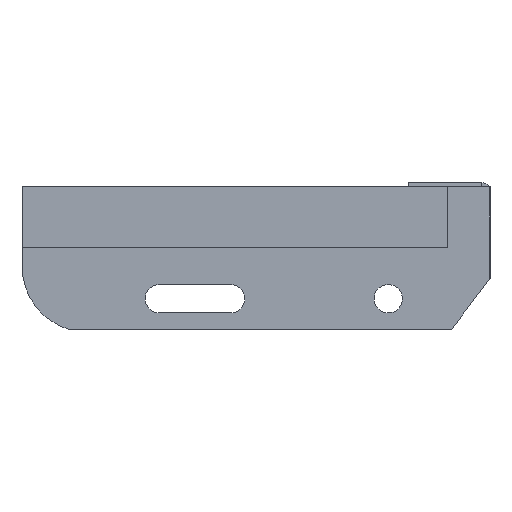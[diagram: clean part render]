
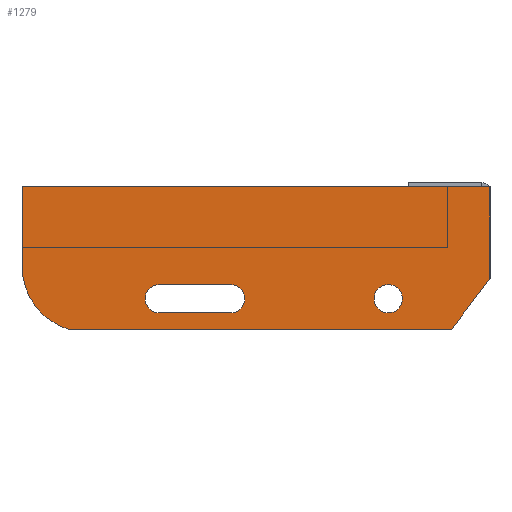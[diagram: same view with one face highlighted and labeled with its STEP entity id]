
A CAD part, left-side view. The second image highlights one B-rep face of the part: STEP entity #1279.
In plain terms, the highlighted planar face has unit normal (-1, 0, 0) as drawn and (0, 0, 1) by its records, which use the part's own axes.
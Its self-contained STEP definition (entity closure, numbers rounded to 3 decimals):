
#20 = VERTEX_POINT ( 'NONE', #645 ) ;
#32 = DIRECTION ( 'NONE',  ( -1., 0., 0. ) ) ;
#55 = DIRECTION ( 'NONE',  ( 0., 0., 1. ) ) ;
#59 = CARTESIAN_POINT ( 'NONE',  ( -162.5, -62., 3. ) ) ;
#69 = LINE ( 'NONE', #1613, #1296 ) ;
#104 = DIRECTION ( 'NONE',  ( 1., 0., 0. ) ) ;
#117 = LINE ( 'NONE', #1166, #1078 ) ;
#143 = DIRECTION ( 'NONE',  ( 1., 0., 0. ) ) ;
#144 = LINE ( 'NONE', #1244, #1313 ) ;
#160 = ORIENTED_EDGE ( 'NONE', *, *, #1786, .T. ) ;
#172 = ORIENTED_EDGE ( 'NONE', *, *, #1314, .T. ) ;
#183 = VERTEX_POINT ( 'NONE', #718 ) ;
#192 = DIRECTION ( 'NONE',  ( 1., 0., 0. ) ) ;
#211 = CIRCLE ( 'NONE', #275, 7. ) ;
#244 = VECTOR ( 'NONE', #1634, 1000. ) ;
#254 = CARTESIAN_POINT ( 'NONE',  ( -127.5, -48., 3. ) ) ;
#270 = CARTESIAN_POINT ( 'NONE',  ( -230., 0., 3. ) ) ;
#275 = AXIS2_PLACEMENT_3D ( 'NONE', #826, #1764, #1912 ) ;
#302 = DIRECTION ( 'NONE',  ( 1., 0., 0. ) ) ;
#376 = CARTESIAN_POINT ( 'NONE',  ( -162.5, -48., 3. ) ) ;
#391 = CARTESIAN_POINT ( 'NONE',  ( -127.5, -62., 3. ) ) ;
#396 = ORIENTED_EDGE ( 'NONE', *, *, #980, .T. ) ;
#442 = CARTESIAN_POINT ( 'NONE',  ( -50., -55., 3. ) ) ;
#447 = DIRECTION ( 'NONE',  ( 0., 1., 0. ) ) ;
#456 = VECTOR ( 'NONE', #714, 1000. ) ;
#505 = VERTEX_POINT ( 'NONE', #998 ) ;
#515 = ORIENTED_EDGE ( 'NONE', *, *, #580, .F. ) ;
#518 = EDGE_CURVE ( 'NONE', #1300, #1070, #1923, .T. ) ;
#543 = EDGE_CURVE ( 'NONE', #1960, #1675, #69, .T. ) ;
#547 = DIRECTION ( 'NONE',  ( 0., 0., 1. ) ) ;
#566 = FACE_BOUND ( 'NONE', #1840, .T. ) ;
#580 = EDGE_CURVE ( 'NONE', #20, #1109, #211, .T. ) ;
#617 = EDGE_CURVE ( 'NONE', #1070, #183, #725, .T. ) ;
#645 = CARTESIAN_POINT ( 'NONE',  ( -43., -55., 3. ) ) ;
#648 = CARTESIAN_POINT ( 'NONE',  ( -57., -55., 3. ) ) ;
#664 = AXIS2_PLACEMENT_3D ( 'NONE', #1462, #55, #840 ) ;
#714 = DIRECTION ( 'NONE',  ( 0., -1., 0. ) ) ;
#718 = CARTESIAN_POINT ( 'NONE',  ( -169.5, -55., 3. ) ) ;
#725 = CIRCLE ( 'NONE', #664, 7. ) ;
#799 = AXIS2_PLACEMENT_3D ( 'NONE', #442, #1431, #1087 ) ;
#824 = DIRECTION ( 'NONE',  ( 1., 0., 0. ) ) ;
#826 = CARTESIAN_POINT ( 'NONE',  ( -50., -55., 3. ) ) ;
#829 = AXIS2_PLACEMENT_3D ( 'NONE', #1075, #1709, #302 ) ;
#838 = LINE ( 'NONE', #59, #1882 ) ;
#840 = DIRECTION ( 'NONE',  ( 1., 0., 0. ) ) ;
#863 = LINE ( 'NONE', #270, #456 ) ;
#882 = PLANE ( 'NONE',  #1148 ) ;
#900 = ORIENTED_EDGE ( 'NONE', *, *, #543, .T. ) ;
#901 = EDGE_CURVE ( 'NONE', #1109, #20, #1681, .T. ) ;
#907 = CARTESIAN_POINT ( 'NONE',  ( 0., 0., 3. ) ) ;
#924 = AXIS2_PLACEMENT_3D ( 'NONE', #1311, #1479, #1938 ) ;
#956 = ORIENTED_EDGE ( 'NONE', *, *, #1161, .F. ) ;
#973 = CARTESIAN_POINT ( 'NONE',  ( -162.5, -48., 3. ) ) ;
#980 = EDGE_CURVE ( 'NONE', #1698, #505, #1782, .T. ) ;
#983 = CARTESIAN_POINT ( 'NONE',  ( -230., -39., 3. ) ) ;
#985 = CARTESIAN_POINT ( 'NONE',  ( -162.5, -62., 3. ) ) ;
#998 = CARTESIAN_POINT ( 'NONE',  ( -207.26, -70., 3. ) ) ;
#1062 = DIRECTION ( 'NONE',  ( 0., 0., 1. ) ) ;
#1070 = VERTEX_POINT ( 'NONE', #376 ) ;
#1075 = CARTESIAN_POINT ( 'NONE',  ( -197.5, -39., 3. ) ) ;
#1078 = VECTOR ( 'NONE', #447, 1000. ) ;
#1087 = DIRECTION ( 'NONE',  ( 1., 0., 0. ) ) ;
#1109 = VERTEX_POINT ( 'NONE', #648 ) ;
#1145 = EDGE_CURVE ( 'NONE', #1887, #1300, #1624, .T. ) ;
#1148 = AXIS2_PLACEMENT_3D ( 'NONE', #1958, #547, #104 ) ;
#1152 = VERTEX_POINT ( 'NONE', #985 ) ;
#1161 = EDGE_CURVE ( 'NONE', #1152, #1887, #838, .T. ) ;
#1166 = CARTESIAN_POINT ( 'NONE',  ( 0., 0., 3. ) ) ;
#1173 = DIRECTION ( 'NONE',  ( 0.602, 0.799, 0. ) ) ;
#1244 = CARTESIAN_POINT ( 'NONE',  ( -18.839, -70., 3. ) ) ;
#1254 = EDGE_LOOP ( 'NONE', ( #1836, #900, #172, #396, #160, #1984 ) ) ;
#1255 = CARTESIAN_POINT ( 'NONE',  ( -18.839, -70., 3. ) ) ;
#1257 = CARTESIAN_POINT ( 'NONE',  ( 0., -45., 3. ) ) ;
#1279 = ADVANCED_FACE ( 'NONE', ( #1661, #1333, #566 ), #882, .T. ) ;
#1280 = ORIENTED_EDGE ( 'NONE', *, *, #617, .F. ) ;
#1296 = VECTOR ( 'NONE', #32, 1000. ) ;
#1300 = VERTEX_POINT ( 'NONE', #254 ) ;
#1311 = CARTESIAN_POINT ( 'NONE',  ( -127.5, -55., 3. ) ) ;
#1313 = VECTOR ( 'NONE', #192, 1000. ) ;
#1314 = EDGE_CURVE ( 'NONE', #1675, #1698, #863, .T. ) ;
#1333 = FACE_BOUND ( 'NONE', #1373, .T. ) ;
#1339 = EDGE_CURVE ( 'NONE', #2014, #1960, #117, .T. ) ;
#1373 = EDGE_LOOP ( 'NONE', ( #1652, #515 ) ) ;
#1385 = CARTESIAN_POINT ( 'NONE',  ( 0., -45., 3. ) ) ;
#1412 = VERTEX_POINT ( 'NONE', #1255 ) ;
#1414 = LINE ( 'NONE', #1257, #1770 ) ;
#1431 = DIRECTION ( 'NONE',  ( 0., 0., 1. ) ) ;
#1462 = CARTESIAN_POINT ( 'NONE',  ( -162.5, -55., 3. ) ) ;
#1469 = EDGE_CURVE ( 'NONE', #183, #1152, #1877, .T. ) ;
#1478 = ORIENTED_EDGE ( 'NONE', *, *, #518, .F. ) ;
#1479 = DIRECTION ( 'NONE',  ( 0., 0., 1. ) ) ;
#1517 = ORIENTED_EDGE ( 'NONE', *, *, #1469, .F. ) ;
#1613 = CARTESIAN_POINT ( 'NONE',  ( 0., 0., 3. ) ) ;
#1618 = AXIS2_PLACEMENT_3D ( 'NONE', #1884, #1062, #143 ) ;
#1624 = CIRCLE ( 'NONE', #924, 7. ) ;
#1634 = DIRECTION ( 'NONE',  ( -1., 0., 0. ) ) ;
#1652 = ORIENTED_EDGE ( 'NONE', *, *, #901, .F. ) ;
#1661 = FACE_OUTER_BOUND ( 'NONE', #1254, .T. ) ;
#1675 = VERTEX_POINT ( 'NONE', #1767 ) ;
#1681 = CIRCLE ( 'NONE', #799, 7. ) ;
#1698 = VERTEX_POINT ( 'NONE', #983 ) ;
#1709 = DIRECTION ( 'NONE',  ( 0., 0., 1. ) ) ;
#1764 = DIRECTION ( 'NONE',  ( 0., 0., 1. ) ) ;
#1767 = CARTESIAN_POINT ( 'NONE',  ( -230., 0., 3. ) ) ;
#1770 = VECTOR ( 'NONE', #1173, 1000. ) ;
#1782 = CIRCLE ( 'NONE', #829, 32.5 ) ;
#1786 = EDGE_CURVE ( 'NONE', #505, #1412, #144, .T. ) ;
#1836 = ORIENTED_EDGE ( 'NONE', *, *, #1339, .T. ) ;
#1840 = EDGE_LOOP ( 'NONE', ( #956, #1517, #1280, #1478, #2010 ) ) ;
#1860 = EDGE_CURVE ( 'NONE', #1412, #2014, #1414, .T. ) ;
#1877 = CIRCLE ( 'NONE', #1618, 7. ) ;
#1882 = VECTOR ( 'NONE', #824, 1000. ) ;
#1884 = CARTESIAN_POINT ( 'NONE',  ( -162.5, -55., 3. ) ) ;
#1887 = VERTEX_POINT ( 'NONE', #391 ) ;
#1912 = DIRECTION ( 'NONE',  ( 1., 0., 0. ) ) ;
#1923 = LINE ( 'NONE', #973, #244 ) ;
#1938 = DIRECTION ( 'NONE',  ( 1., 0., 0. ) ) ;
#1958 = CARTESIAN_POINT ( 'NONE',  ( -197.5, -39., 3. ) ) ;
#1960 = VERTEX_POINT ( 'NONE', #907 ) ;
#1984 = ORIENTED_EDGE ( 'NONE', *, *, #1860, .T. ) ;
#2010 = ORIENTED_EDGE ( 'NONE', *, *, #1145, .F. ) ;
#2014 = VERTEX_POINT ( 'NONE', #1385 ) ;
